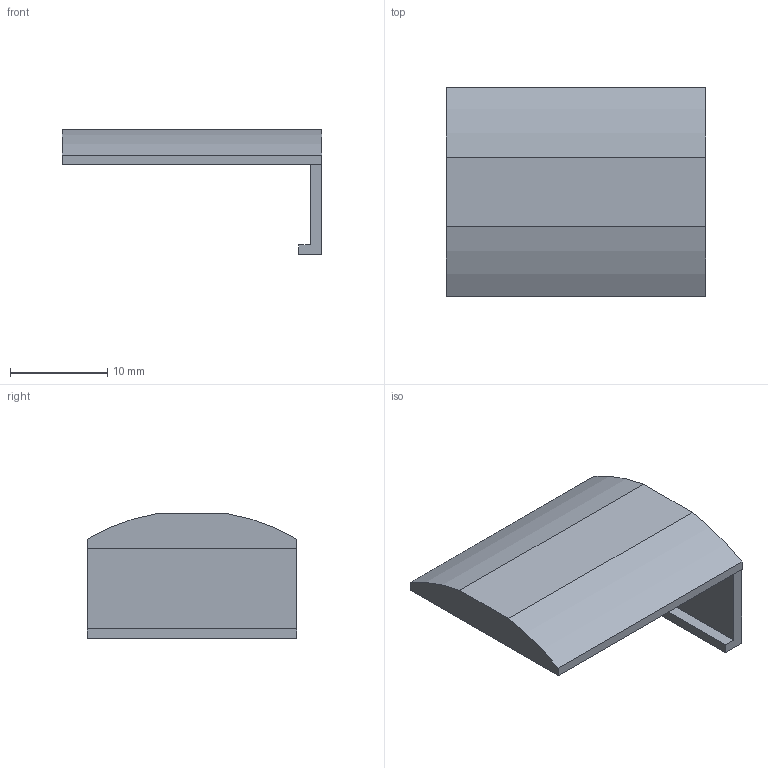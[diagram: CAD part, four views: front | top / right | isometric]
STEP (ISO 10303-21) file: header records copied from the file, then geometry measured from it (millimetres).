
FILE_DESCRIPTION(('Open CASCADE Model'),'2;1');
FILE_NAME('Open CASCADE Shape Model','2026-10-04T08:08:21',('Author'),( 'Open CASCADE'),'Open CASCADE STEP processor 7.9','Open CASCADE 7.9' ,'Unknown');
FILE_SCHEMA(('AUTOMOTIVE_DESIGN { 1 0 10303 214 1 1 1 1 }'));
Length unit declared in the file: millimetre
Products named in the file (1): Open CASCADE STEP translator 7.9 13
Bounding box: 26.8 x 21.6 x 12.9 mm (x, y, z)
Volume: 1935.6 mm3; surface area: 1839.4 mm2
Topology: 1 solids, 1 shells, 14 faces, 36 edges, 24 vertices
Faces by surface type: plane 12, cylinder 2
Entity records: 888 total; most frequent: CARTESIAN_POINT 161, DIRECTION 128, LINE 86, VECTOR 86, ORIENTED_EDGE 72, PCURVE 72, DEFINITIONAL_REPRESENTATION 72, EDGE_CURVE 36
